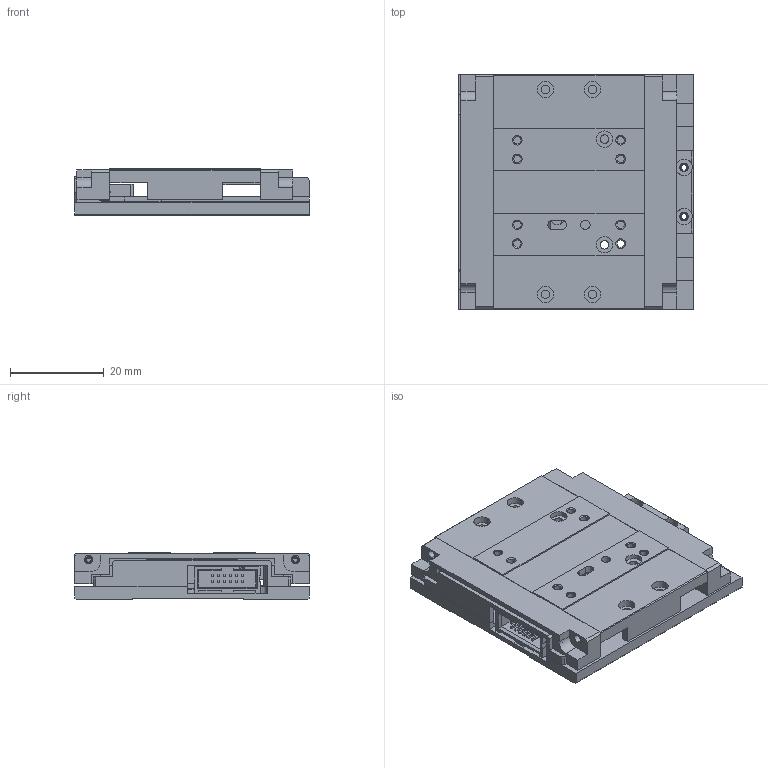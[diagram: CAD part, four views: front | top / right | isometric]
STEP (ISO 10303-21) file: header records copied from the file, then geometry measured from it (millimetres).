
FILE_DESCRIPTION (( 'STEP AP203' ), '1' );
FILE_NAME ('SLA10-005-5X-1_E.STEP', '2018-03-07T18:56:38', ( '' ), ( '' ), 'SwSTEP 2.0', 'SolidWorks 2018', '' );
FILE_SCHEMA (( 'CONFIG_CONTROL_DESIGN' ));
Length unit declared in the file: millimetre
Products named in the file (8): 23649-11_B; 23649-10_B; 230085-01_B; 14728-05_C; 12603-05_C; 14728-06_C; 775074-00_A; SLA10-005-5X-1_E
Assembly tree (7 placements, depth 2):
  SLA10-005-5X-1_E
    23649-11_B
    23649-10_B
    230085-01_B
    14728-05_C
    12603-05_C
    14728-06_C
    775074-00_A
Bounding box: 50 x 50 x 10 mm (x, y, z)
Volume: 11403.8 mm3; surface area: 16508.5 mm2
Topology: 9 solids, 9 shells, 732 faces, 2069 edges, 1355 vertices
Faces by surface type: plane 479, cylinder 201, cone 48, bspline 4
Entity records: 24775 total; most frequent: CARTESIAN_POINT 4348, ORIENTED_EDGE 4138, DIRECTION 4023, EDGE_CURVE 2069, LINE 1555, VECTOR 1555, VERTEX_POINT 1355, AXIS2_PLACEMENT_3D 1234
